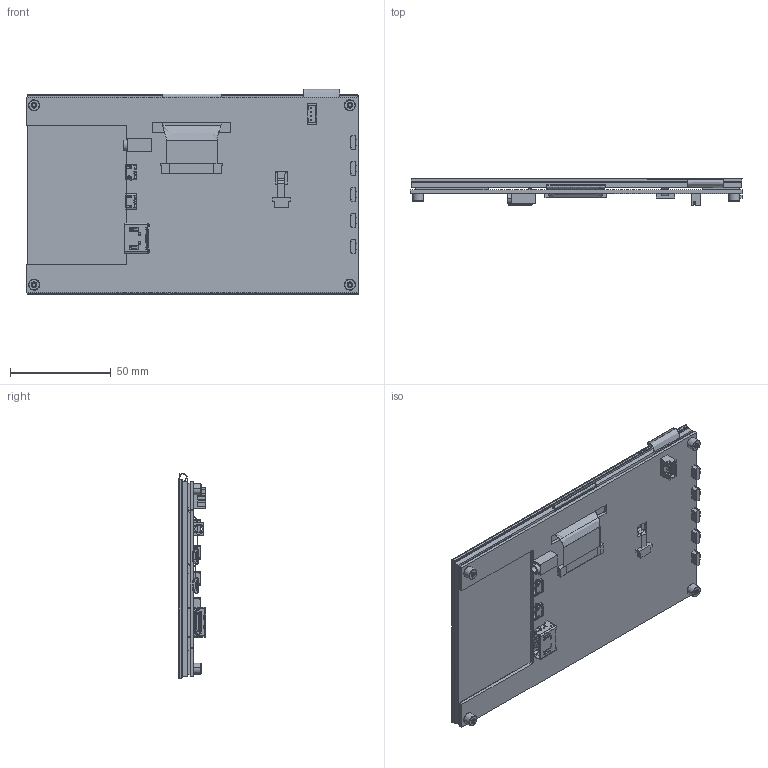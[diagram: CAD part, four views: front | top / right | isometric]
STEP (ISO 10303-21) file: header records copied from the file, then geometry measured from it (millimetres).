
FILE_DESCRIPTION((''),'2;1');
FILE_NAME('7IP-CAPLCD_ASM','2023-01-03T17:02:01',('xiaojisheng'),(''),'CREO PARAMETRIC BY PTC INC, 2021063','CREO PARAMETRIC BY PTC INC, 2021063','');
FILE_SCHEMA(('CONFIG_CONTROL_DESIGN','SHAPE_APPEARANCE_LAYERS_GROUPS'));
Products named in the file (13): 7INCH-1024X600-TP; 7INCH-JHD-BI50LA7001-21C; 7INCH-1024X600-LCD_TP_ASM; 7IP-CAPLCD-PCB; STUDS-M2_5XH4; 2MMX4PIN; HDMI-J1_47151-0001_61277A9B; MICRO_USB_PORT; EVA; SWITCH-7X3_5X3_5; 7IP-HP; 7IP-CAPLCD-PCBA_ASM; 7IP-CAPLCD_ASM
Assembly tree (20 placements, depth 3):
  7IP-CAPLCD_ASM
    7INCH-1024X600-LCD_TP_ASM
      7INCH-1024X600-TP
      7INCH-JHD-BI50LA7001-21C
    7IP-CAPLCD-PCBA_ASM
      7IP-CAPLCD-PCB
      STUDS-M2_5XH4  x4
      2MMX4PIN
      HDMI-J1_47151-0001_61277A9B
      MICRO_USB_PORT  x2
      EVA
      SWITCH-7X3_5X3_5  x5
      7IP-HP
Bounding box: 164.8 x 13.7 x 102 mm (x, y, z)
Volume: 88370.7 mm3; surface area: 137408.8 mm2
Topology: 21 solids, 32 shells, 4193 faces, 11038 edges, 6783 vertices
Faces by surface type: plane 2086, cylinder 1379, torus 484, bspline 152, cone 44, sphere 40, extrusion 8
Entity records: 111477 total; most frequent: CARTESIAN_POINT 22942, ORIENTED_EDGE 14592, DIRECTION 14116, EDGE_CURVE 7296, VECTOR 5166, LINE 5158, VERTEX_POINT 4570, AXIS2_PLACEMENT_3D 4475
